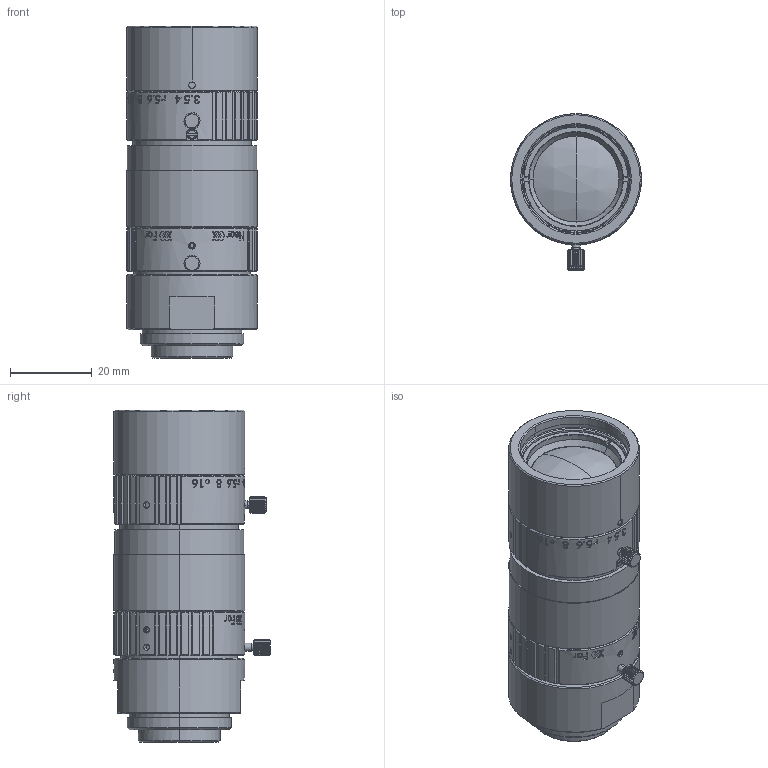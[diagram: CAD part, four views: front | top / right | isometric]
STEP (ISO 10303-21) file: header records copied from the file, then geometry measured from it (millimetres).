
FILE_DESCRIPTION (( 'STEP AP214' ), '1' );
FILE_NAME ('ML-MC75AR.STEP', '2026-02-12T06:42:41', ( '' ), ( '' ), 'SwSTEP 2.0', 'SolidWorks 2025', '' );
FILE_SCHEMA (( 'AUTOMOTIVE_DESIGN' ));
Length unit declared in the file: millimetre
Products named in the file (1): ML-MC75AR
Bounding box: 32 x 38.25 x 81.2 mm (x, y, z)
Volume: 54644 mm3; surface area: 12514.1 mm2
Topology: 1 solids, 3 shells, 1121 faces, 2969 edges, 1920 vertices
Faces by surface type: plane 442, cylinder 349, cone 173, bspline 153, sphere 4
Entity records: 49783 total; most frequent: CARTESIAN_POINT 24248, ORIENTED_EDGE 5938, DIRECTION 4363, EDGE_CURVE 2969, VERTEX_POINT 1920, AXIS2_PLACEMENT_3D 1632, B_SPLINE_CURVE_WITH_KNOTS 1205, EDGE_LOOP 1187
